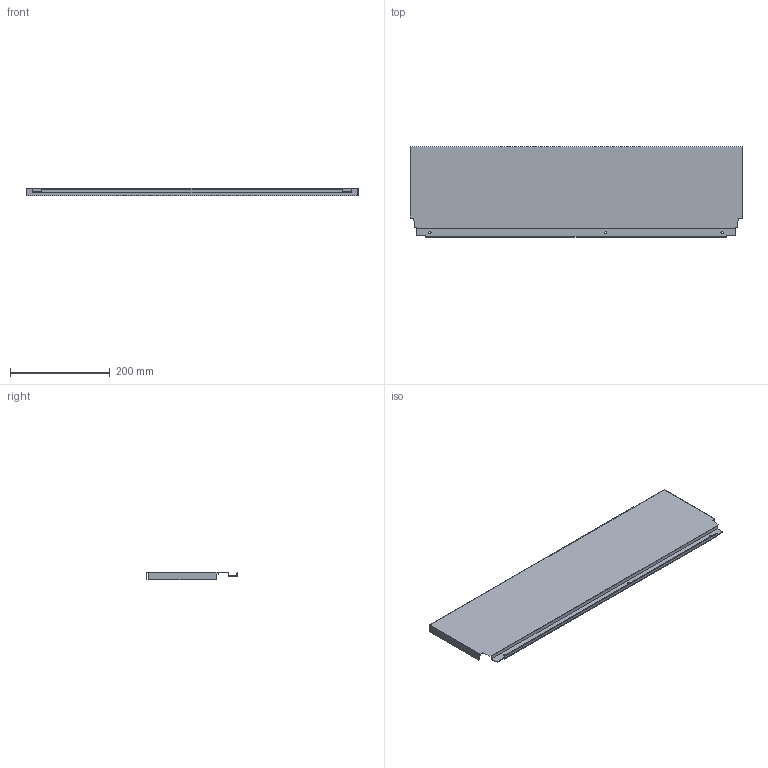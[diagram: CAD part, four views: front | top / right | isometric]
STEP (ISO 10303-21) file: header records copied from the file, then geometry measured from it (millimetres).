
FILE_DESCRIPTION (( 'STEP AP214' ), '1' );
FILE_NAME ('_DWD_XP Stahlrückwand_H182_KAB750_S16.step', '2010-07-08T12:57:36', ( 'grass' ), ( '' ), 'SwSTEP 2.0', 'SolidWorks 2010', '' );
FILE_SCHEMA (( 'AUTOMOTIVE_DESIGN' ));
Length unit declared in the file: millimetre
Products named in the file (1): _DWD_XP Stahlrückwand_H182_KAB750_S16
Bounding box: 667 x 182.49 x 16 mm (x, y, z)
Volume: 125406.2 mm3; surface area: 290386.7 mm2
Topology: 1 solids, 1 shells, 46 faces, 132 edges, 88 vertices
Faces by surface type: plane 40, cylinder 6
Entity records: 1534 total; most frequent: CARTESIAN_POINT 267, ORIENTED_EDGE 264, DIRECTION 238, EDGE_CURVE 132, VECTOR 120, LINE 120, VERTEX_POINT 88, AXIS2_PLACEMENT_3D 59
